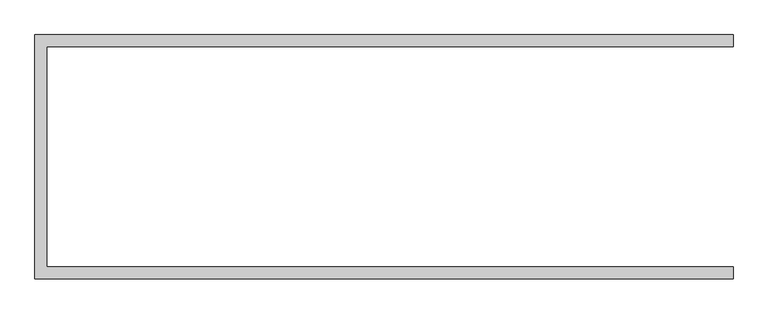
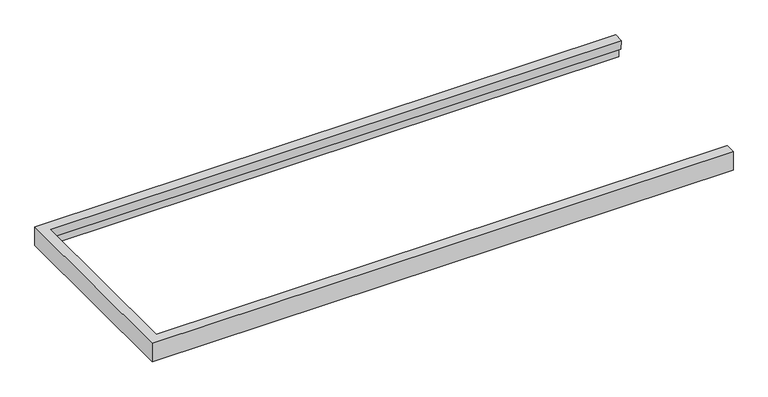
"""IFC4 building model written with IfcOpenShell, lengths in millimetres: member geometry, 32_IM_005_WDI_deurkozijn : 32_IM_005_WDI_deurkozijn."""

from ifc_helpers import new_model, si_unit, origin, place, context, project, spatial, faceted_brep, source, transform, mapped, element, save


def member_d9187866(model_context):
    return source(origin(), model_context, "Body", "Brep", [
        faceted_brep([(1480.0, 490.0, -50.0), (1480.0, 518.0, -50.0), (1480.0, 518.0, 50.0), (1480.0, 468.0000326, 50.0), (1480.0, 473.0, 0.0), (1480.0, 490.0, 0.0), (-1480.0, -518.0, 50.0), (-1480.0, 518.0, 50.0), (-1480.0, 518.0, -50.0), (-1480.0, -518.0, -50.0), (1480.0, -518.0, 50.0), (1480.0, -468.0000326, 50.0), (-1430.0000326, -468.0000326, 50.0), (-1430.0000326, 468.0000326, 50.0), (-1452.0, 490.0, -50.0), (-1452.0, -490.0, -50.0), (1480.0, -490.0, -50.0), (1480.0, -518.0, -50.0), (1480.0, -490.0, 0.0), (1480.0, -473.0, 0.0), (-1452.0, -490.0, 0.0), (-1452.0, 490.0, 0.0), (-1435.0, 473.0, 0.0), (-1435.0, -473.0, 0.0)], [[[0, 1, 2, 3, 4, 5]], [[6, 7, 8, 9]], [[3, 2, 7, 6, 10, 11, 12, 13]], [[2, 1, 8, 7]], [[1, 0, 14, 15, 16, 17, 9, 8]], [[10, 6, 9, 17]], [[16, 18, 19, 11, 10, 17]], [[20, 18, 16, 15]], [[14, 21, 20, 15]], [[5, 4, 22, 23, 19, 18, 20, 21]], [[0, 5, 21, 14]], [[4, 3, 13, 22]], [[22, 13, 12, 23]], [[11, 19, 23, 12]]]),
    ])


if __name__ == "__main__":
    model = new_model("IFC4")
    model_context = context("Model", 3, world=origin())
    ifc_project = project(units=[si_unit("LENGTHUNIT", "METRE", prefix="MILLI")], contexts=[model_context])
    site = spatial("IfcSite", under=ifc_project)
    building = spatial("IfcBuilding", under=site)
    placement = place(None, origin())
    member_shape = member_d9187866(model_context)
    element("IfcMember", 1, ObjectType="32_IM_005_WDI_deurkozijn : 32_IM_005_WDI_deurkozijn", at=placement, inside=building, context=model_context, shape_type="MappedRepresentation", body=[
        mapped(member_shape, transform((0.0, 0.0, 0.0), x_axis=(1.0, 0.0, 0.0), y_axis=(0.0, 1.0, 0.0), z_axis=(0.0, 0.0, 1.0))),
    ])
    save(model, "model.ifc")
